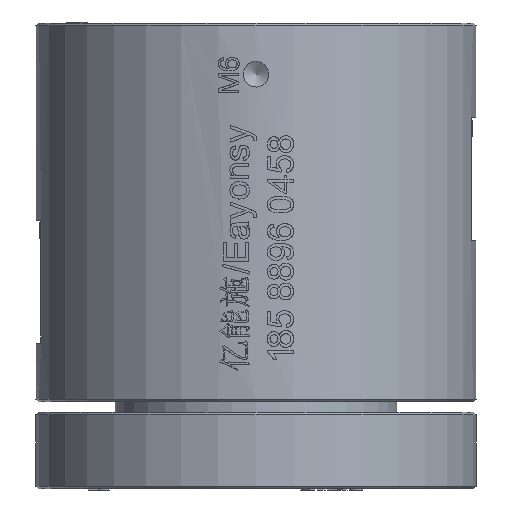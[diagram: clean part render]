
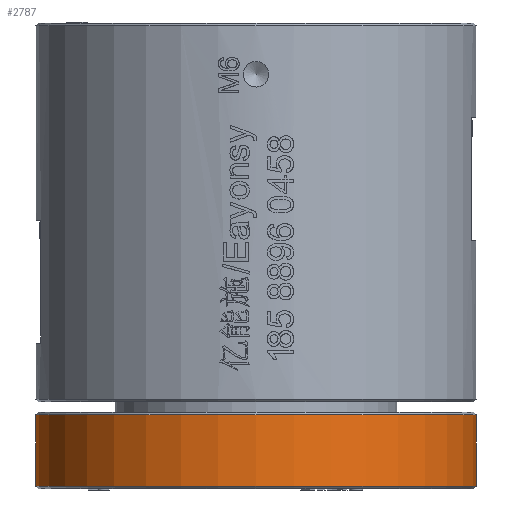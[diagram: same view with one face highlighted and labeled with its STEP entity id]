
A CAD part, left-side view. The second image highlights one B-rep face of the part: STEP entity #2787.
In plain terms, the highlighted cylindrical face has radius 43 mm (diameter 86 mm), a full revolution.
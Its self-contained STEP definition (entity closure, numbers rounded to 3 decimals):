
#261=CYLINDRICAL_SURFACE('',#25948,43.);
#472=FACE_BOUND('',#5991,.T.);
#473=FACE_BOUND('',#5992,.T.);
#639=CIRCLE('',#25946,43.);
#640=CIRCLE('',#25947,43.);
#2787=ADVANCED_FACE('',(#472,#473),#261,.T.);
#5991=EDGE_LOOP('',(#14855));
#5992=EDGE_LOOP('',(#14856));
#14855=ORIENTED_EDGE('',*,*,#21332,.T.);
#14856=ORIENTED_EDGE('',*,*,#21333,.T.);
#17655=VERTEX_POINT('',#53085);
#17656=VERTEX_POINT('',#53087);
#21332=EDGE_CURVE('',#17655,#17655,#639,.T.);
#21333=EDGE_CURVE('',#17656,#17656,#640,.T.);
#25946=AXIS2_PLACEMENT_3D('',#53084,#28596,#28597);
#25947=AXIS2_PLACEMENT_3D('',#53086,#28598,#28599);
#25948=AXIS2_PLACEMENT_3D('',#53088,#28600,#28601);
#28596=DIRECTION('',(0.,0.,-1.));
#28597=DIRECTION('',(1.,0.,0.));
#28598=DIRECTION('',(0.,0.,1.));
#28599=DIRECTION('',(-1.,0.,0.));
#28600=DIRECTION('',(0.,0.,1.));
#28601=DIRECTION('',(1.,0.,0.));
#53084=CARTESIAN_POINT('',(0.,0.,14.5));
#53085=CARTESIAN_POINT('',(43.,0.,14.5));
#53086=CARTESIAN_POINT('',(0.,0.,0.5));
#53087=CARTESIAN_POINT('',(-43.,0.,0.5));
#53088=CARTESIAN_POINT('',(0.,0.,0.));
